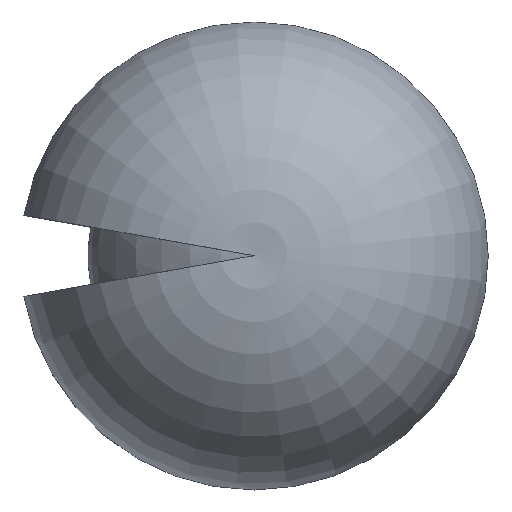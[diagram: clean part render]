
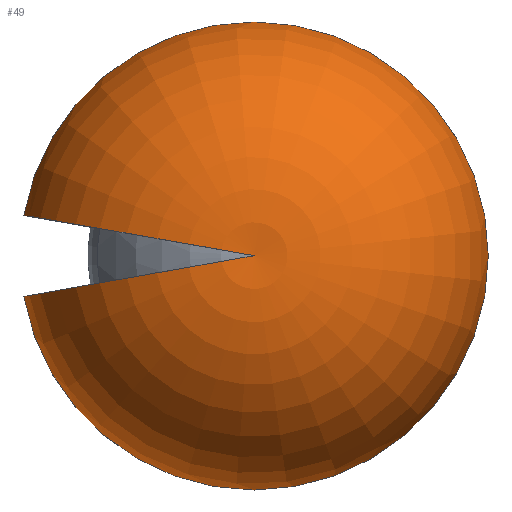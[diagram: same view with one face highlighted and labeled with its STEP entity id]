
A CAD part, top view. The second image highlights one B-rep face of the part: STEP entity #49.
In plain terms, the highlighted toroidal (fillet/blend) face has major radius 350 mm and minor radius 2453.88 mm.
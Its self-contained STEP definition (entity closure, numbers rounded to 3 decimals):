
#12 = DIRECTION ( 'NONE',  ( 0., 0., -1. ) ) ;
#13 = VERTEX_POINT ( 'NONE', #107 ) ;
#16 = VERTEX_POINT ( 'NONE', #135 ) ;
#31 = CIRCLE ( 'NONE', #227, 2794.546 ) ;
#37 = DIRECTION ( 'NONE',  ( 0., 1., 0. ) ) ;
#49 = ADVANCED_FACE ( 'NONE', ( #299 ), #277, .T. ) ;
#54 = CARTESIAN_POINT ( 'NONE',  ( 0., 0., 780. ) ) ;
#60 = AXIS2_PLACEMENT_3D ( 'NONE', #306, #187, #305 ) ;
#69 = ORIENTED_EDGE ( 'NONE', *, *, #122, .F. ) ;
#107 = CARTESIAN_POINT ( 'NONE',  ( 0., 0., 3208.795 ) ) ;
#122 = EDGE_CURVE ( 'NONE', #222, #16, #31, .T. ) ;
#135 = CARTESIAN_POINT ( 'NONE',  ( -2752.091, -485.268, 993.87 ) ) ;
#136 = DIRECTION ( 'NONE',  ( 0.985, -0.174, 0. ) ) ;
#139 = EDGE_CURVE ( 'NONE', #222, #13, #262, .T. ) ;
#140 = CARTESIAN_POINT ( 'NONE',  ( 0., 0., 993.87 ) ) ;
#152 = EDGE_LOOP ( 'NONE', ( #290, #69, #217 ) ) ;
#153 = CIRCLE ( 'NONE', #60, 2453.884 ) ;
#187 = DIRECTION ( 'NONE',  ( -0.174, 0.985, 0. ) ) ;
#211 = DIRECTION ( 'NONE',  ( 0.174, 0.985, 0. ) ) ;
#217 = ORIENTED_EDGE ( 'NONE', *, *, #139, .T. ) ;
#219 = EDGE_CURVE ( 'NONE', #16, #13, #153, .T. ) ;
#222 = VERTEX_POINT ( 'NONE', #284 ) ;
#227 = AXIS2_PLACEMENT_3D ( 'NONE', #140, #12, #37 ) ;
#246 = AXIS2_PLACEMENT_3D ( 'NONE', #285, #211, #136 ) ;
#261 = AXIS2_PLACEMENT_3D ( 'NONE', #54, #300, #279 ) ;
#262 = CIRCLE ( 'NONE', #246, 2453.884 ) ;
#277 = TOROIDAL_SURFACE ( 'NONE', #261, 350., 2453.884 ) ;
#279 = DIRECTION ( 'NONE',  ( 0., 1., 0. ) ) ;
#284 = CARTESIAN_POINT ( 'NONE',  ( -2752.091, 485.268, 993.87 ) ) ;
#285 = CARTESIAN_POINT ( 'NONE',  ( -344.683, 60.777, 780. ) ) ;
#290 = ORIENTED_EDGE ( 'NONE', *, *, #219, .F. ) ;
#299 = FACE_OUTER_BOUND ( 'NONE', #152, .T. ) ;
#300 = DIRECTION ( 'NONE',  ( 0., 0., -1. ) ) ;
#305 = DIRECTION ( 'NONE',  ( 0.985, 0.174, 0. ) ) ;
#306 = CARTESIAN_POINT ( 'NONE',  ( -344.683, -60.777, 780. ) ) ;
